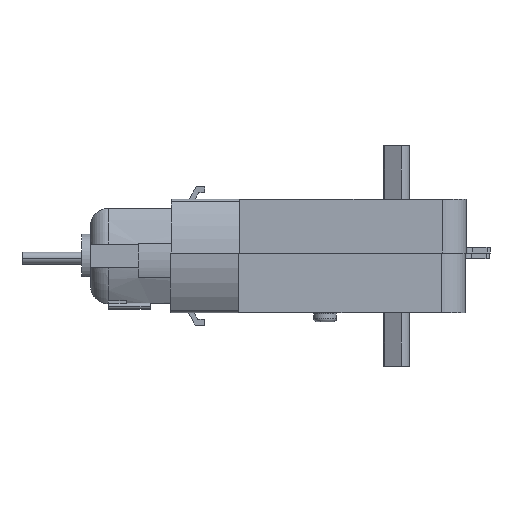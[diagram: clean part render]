
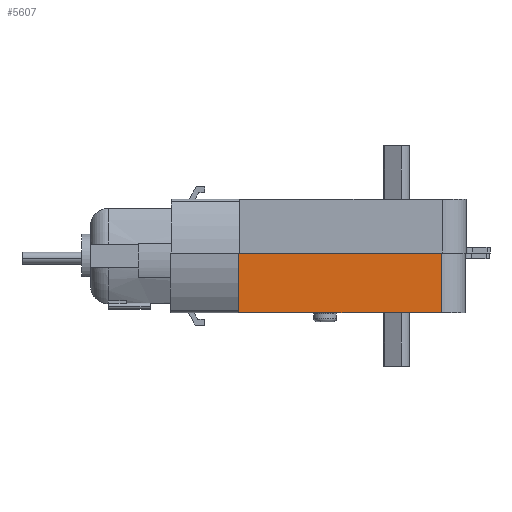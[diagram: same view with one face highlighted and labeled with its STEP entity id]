
A CAD part, front view. The second image highlights one B-rep face of the part: STEP entity #5607.
In plain terms, the highlighted planar face has unit normal (0, -1, 0).
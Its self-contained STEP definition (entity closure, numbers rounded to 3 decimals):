
#3421=CARTESIAN_POINT('',(14.287,-10.0,0.0));
#3422=VERTEX_POINT('',#3421);
#3423=CARTESIAN_POINT('',(-19.713,-10.0,0.0));
#3424=VERTEX_POINT('',#3423);
#3425=CARTESIAN_POINT('',(-0.713,-10.0,0.0));
#3426=DIRECTION('',(-1.0,0.0,0.0));
#3427=VECTOR('',#3426,1.0);
#3428=LINE('',#3425,#3427);
#3429=EDGE_CURVE('no 192078',#3422,#3424,#3428,.T.);
#4218=CARTESIAN_POINT('',(-19.713,-10.0,10.0));
#4219=VERTEX_POINT('',#4218);
#4248=CARTESIAN_POINT('',(14.287,-10.0,10.0));
#4249=VERTEX_POINT('',#4248);
#4259=CARTESIAN_POINT('',(14.287,-10.0,0.0));
#4260=DIRECTION('',(0.0,0.0,1.0));
#4261=VECTOR('',#4260,1.0);
#4262=LINE('',#4259,#4261);
#4263=EDGE_CURVE('no 192024',#3422,#4249,#4262,.T.);
#4522=CARTESIAN_POINT('',(-19.713,-10.0,0.0));
#4523=DIRECTION('',(0.0,0.0,1.0));
#4524=VECTOR('',#4523,1.0);
#4525=LINE('',#4522,#4524);
#4526=EDGE_CURVE('no 194192',#3424,#4219,#4525,.T.);
#5591=ORIENTED_EDGE('no 191670',*,*,#3429,.T.);
#5592=ORIENTED_EDGE('no 191660',*,*,#4526,.T.);
#5593=CARTESIAN_POINT('',(18.287,-10.0,10.0));
#5594=DIRECTION('',(-1.0,0.0,0.0));
#5595=VECTOR('',#5594,1.0);
#5596=LINE('',#5593,#5595);
#5597=EDGE_CURVE('no 194193',#4249,#4219,#5596,.T.);
#5598=ORIENTED_EDGE('no 191674',*,*,#5597,.F.);
#5599=ORIENTED_EDGE('no 191985',*,*,#4263,.F.);
#5600=EDGE_LOOP('',(#5591,#5592,#5598,#5599));
#5601=FACE_OUTER_BOUND('',#5600,.F.);
#5602=CARTESIAN_POINT('',(18.287,-10.0,0.0));
#5603=DIRECTION('',(0.0,1.0,-0.0));
#5604=DIRECTION('',(-1.0,0.0,0.0));
#5605=AXIS2_PLACEMENT_3D('',#5602,#5603,#5604);
#5606=PLANE('',#5605);
#5607=ADVANCED_FACE('no 194153',(#5601),#5606,.F.);
